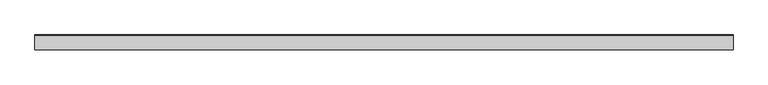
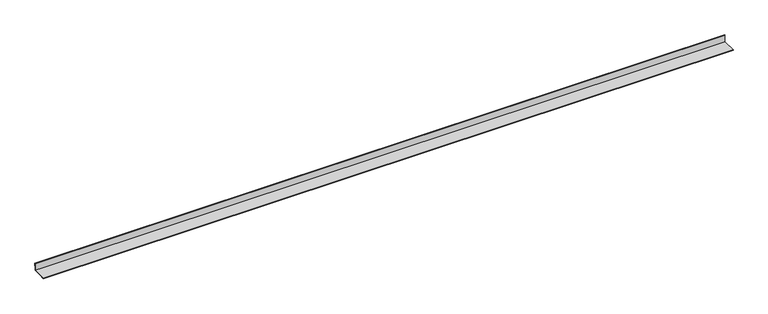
"""IFC4 building model written with IfcOpenShell, lengths in millimetres: proxy geometry, АК3_1 Обрамление внутреннего угла : АК3_1 Обрамление внутреннего угла."""

import ifcopenshell
import ifcopenshell.guid

model = None  # the IFC model being written
_history = None  # IfcOwnerHistory: only IFC2X3 demands one
_inside = {}  # id of a spatial element -> (the spatial element, [elements in it])
_under = {}  # id of a project, library or spatial element -> (it, [spatial elements below it])
_declared = {}  # id of a project -> (the project, [libraries it declares])
_typed = {}  # id of a type object -> (the type object, [elements of that type])
_made_of = {}  # id of a material, layer set ... -> (it, [elements and type objects made of it])


def new_model(schema):
    """Start an empty IFC model of exactly this schema.

    Asked for "IFC4X3", IfcOpenShell would pick the latest addendum, in which some entities
    have other attributes; the version numbers below select the first issue.
    IFC2X3 requires an IfcOwnerHistory on every rooted entity: one is made here for all.
    """
    global model, _history
    if schema == "IFC4X3":
        model = ifcopenshell.file(schema_version=(4, 3, 0, 0))
    else:
        model = ifcopenshell.file(schema=schema)
    _inside.clear()
    _under.clear()
    _declared.clear()
    _typed.clear()
    _made_of.clear()
    _history = None
    if model.schema == "IFC2X3":
        org = make("IfcOrganization", Name="unknown")
        user = make(
            "IfcPersonAndOrganization",
            ThePerson=make("IfcPerson", FamilyName="unknown"),
            TheOrganization=org,
        )
        app = make(
            "IfcApplication",
            ApplicationDeveloper=org,
            Version="unknown",
            ApplicationFullName="unknown",
            ApplicationIdentifier="unknown",
        )
        _history = make(
            "IfcOwnerHistory",
            OwningUser=user,
            OwningApplication=app,
            ChangeAction="ADDED",
            CreationDate=0,
        )
    return model


def make(cls, **values):
    """One entity of the class cls with the attributes given. An attribute that is None is left unset."""
    return model.create_entity(
        cls, **{name: value for name, value in values.items() if value is not None}
    )


def rooted(cls, **values):
    """An entity with a GlobalId (a new one), such as an element, a storey or a relation."""
    return make(cls, GlobalId=ifcopenshell.guid.new(), OwnerHistory=_history, **values)


def si_unit(unit_type, name, prefix=None):
    """IfcSIUnit, for example si_unit("LENGTHUNIT", "METRE", prefix="MILLI")."""
    return make("IfcSIUnit", UnitType=unit_type, Prefix=prefix, Name=name)


def assignment(units):
    """IfcUnitAssignment: the units of a project."""
    return None if units is None else make("IfcUnitAssignment", Units=units)


def point(xyz):
    """IfcCartesianPoint."""
    return None if xyz is None else make("IfcCartesianPoint", Coordinates=xyz)


def direction(xyz):
    """IfcDirection."""
    return None if xyz is None else make("IfcDirection", DirectionRatios=xyz)


def frame(location, z_axis=None, x_axis=None):
    """IfcAxis2Placement3D, a coordinate frame: its origin and axes. An axis left out is left unset."""
    return make(
        "IfcAxis2Placement3D",
        Location=point(location),
        Axis=direction(z_axis),
        RefDirection=direction(x_axis),
    )


def origin():
    """The frame at (0, 0, 0) with its axes left unset."""
    return frame((0.0, 0.0, 0.0))


def place(relative_to, where):
    """IfcLocalPlacement: puts the frame where relative to a parent placement (None: the world)."""
    return make(
        "IfcLocalPlacement", PlacementRelTo=relative_to, RelativePlacement=where
    )


def context(
    kind, dimensions, precision=None, world=None, true_north=None, identifier=None
):
    """IfcGeometricRepresentationContext, for example the 3D "Model" context."""
    return make(
        "IfcGeometricRepresentationContext",
        ContextIdentifier=identifier,
        ContextType=kind,
        CoordinateSpaceDimension=dimensions,
        Precision=precision,
        WorldCoordinateSystem=world,
        TrueNorth=true_north,
    )


def project(units=None, contexts=None):
    """IfcProject with its units and contexts."""
    return rooted(
        "IfcProject",
        Name="project",
        RepresentationContexts=contexts,
        UnitsInContext=assignment(units),
    )


def spatial(cls, under=None, at=None, **own):
    """A site, building, storey or space (cls), placed at a placement, below another one or the project."""
    s = rooted(cls, ObjectPlacement=at, **own)
    if under is not None:
        _under.setdefault(under.id(), (under, []))[1].append(s)
    return s


def polyline(points):
    """IfcPolyline through the points."""
    return make("IfcPolyline", Points=[point(p) for p in points])


def outline(outer, holes=None, kind="AREA"):
    """IfcArbitraryClosedProfileDef: a profile drawn as a closed curve; with holes, ...WithVoids."""
    if holes is None:
        return make("IfcArbitraryClosedProfileDef", ProfileType=kind, OuterCurve=outer)
    return make(
        "IfcArbitraryProfileDefWithVoids",
        ProfileType=kind,
        OuterCurve=outer,
        InnerCurves=holes,
    )


def extrude(swept, where, along, depth):
    """IfcExtrudedAreaSolid: the profile swept, set in the frame where, extruded along a direction by depth."""
    return make(
        "IfcExtrudedAreaSolid",
        SweptArea=swept,
        Position=where,
        ExtrudedDirection=direction(along),
        Depth=depth,
    )


def shape(context_of_items, identifier, shape_type, items):
    """IfcShapeRepresentation: the items that make up one representation, for example the "Body"."""
    return make(
        "IfcShapeRepresentation",
        ContextOfItems=context_of_items,
        RepresentationIdentifier=identifier,
        RepresentationType=shape_type,
        Items=items,
    )


def source(mapping_origin, context_of_items, identifier, shape_type, items):
    """IfcRepresentationMap: a shape defined once, which mapped items show again and again."""
    return make(
        "IfcRepresentationMap",
        MappingOrigin=mapping_origin,
        MappedRepresentation=shape(context_of_items, identifier, shape_type, items),
    )


def transform(
    local_origin,
    x_axis=None,
    y_axis=None,
    z_axis=None,
    scale=None,
    scale2=None,
    scale3=None,
    uniform=True,
):
    """IfcCartesianTransformationOperator3D, or its non-uniform kind. x_axis, y_axis, z_axis: its Axis1, 2, 3."""
    if uniform:
        return make(
            "IfcCartesianTransformationOperator3D",
            Axis1=direction(x_axis),
            Axis2=direction(y_axis),
            LocalOrigin=point(local_origin),
            Scale=scale,
            Axis3=direction(z_axis),
        )
    return make(
        "IfcCartesianTransformationOperator3DnonUniform",
        Axis1=direction(x_axis),
        Axis2=direction(y_axis),
        LocalOrigin=point(local_origin),
        Scale=scale,
        Axis3=direction(z_axis),
        Scale2=scale2,
        Scale3=scale3,
    )


def mapped(mapping_source, mapping_target):
    """IfcMappedItem: shows the shape of a source again, moved by a transform."""
    return make(
        "IfcMappedItem", MappingSource=mapping_source, MappingTarget=mapping_target
    )


def made_of(thing, what):
    """Note that an element or type object is made of a material, layer set ...; save() writes the relation."""
    if what is not None:
        _made_of.setdefault(what.id(), (what, []))[1].append(thing)
    return thing


def element(
    cls,
    number,
    at=None,
    inside=None,
    cuts=None,
    type_object=None,
    material=None,
    context=None,
    identifier="Body",
    shape_type=None,
    held_by="IfcProductDefinitionShape",
    body=None,
    shapes=None,
    **own,
):
    """One element of the class cls, such as IfcWall. Its Tag is "e" and its number.

    at: its placement. inside: the storey or other place that contains it. cuts: it is an
    opening in that element (IfcRelVoidsElement). A single representation is given by context,
    identifier, shape_type and body (its items); several are given by shapes. held_by: the class
    of the entity that holds the representations. save() writes the other relations.
    """
    e = rooted(cls, Tag="e%d" % number, ObjectPlacement=at, **own)
    if body is not None:
        shapes = [shape(context, identifier, shape_type, body)]
    if shapes is not None:
        e.Representation = make(held_by, Representations=shapes)
    if inside is not None:
        _inside.setdefault(inside.id(), (inside, []))[1].append(e)
    if cuts is not None:
        rooted(
            "IfcRelVoidsElement", RelatingBuildingElement=cuts, RelatedOpeningElement=e
        )
    if type_object is not None:
        _typed.setdefault(type_object.id(), (type_object, []))[1].append(e)
    return made_of(e, material)


def aggregate(whole, parts):
    """IfcRelAggregates: a whole, such as a stair, and the parts it consists of."""
    return rooted("IfcRelAggregates", RelatingObject=whole, RelatedObjects=parts)


def save(model, path):
    """Write the relations noted so far, then the file.

    IfcRelAggregates (storeys below a building ...), IfcRelContainedInSpatialStructure (elements
    in a storey), IfcRelDefinesByType, IfcRelAssociatesMaterial and IfcRelDeclares: one each for
    every whole, place, type object, material and project.
    """
    for whole, parts in _under.values():
        aggregate(whole, parts)
    for where, things in _inside.values():
        rooted(
            "IfcRelContainedInSpatialStructure",
            RelatedElements=things,
            RelatingStructure=where,
        )
    for kind, things in _typed.values():
        rooted("IfcRelDefinesByType", RelatedObjects=things, RelatingType=kind)
    for what, things in _made_of.values():
        rooted("IfcRelAssociatesMaterial", RelatedObjects=things, RelatingMaterial=what)
    for by, libraries in _declared.values():
        rooted("IfcRelDeclares", RelatingContext=by, RelatedDefinitions=libraries)
    model.write(path)


def generic_models_0874c4ac(model_context):
    return source(origin(), model_context, "Body", "SweptSolid", [
        extrude(outline(polyline([(-125.0, 5.0), (-5.0, 5.0), (-5.0, 65.0), (-2.0, 65.0), (-2.0, 45.0), (-3.0, 45.0), (-3.0, 64.0), (-4.0, 64.0), (-4.0, 4.0), (-124.0, 4.0), (-124.0, 3.0), (-105.0, 3.0), (-105.0, 2.0), (-125.0, 2.0), (-125.0, 5.0)])), frame((0.0, 0.0, 0.0), z_axis=(1.0, 0.0, 0.0), x_axis=(0.0, 1.0, 0.0)), (0.0, 0.0, 1.0), 5825.0),
    ])


if __name__ == "__main__":
    model = new_model("IFC4")
    model_context = context("Model", 3, world=origin())
    ifc_project = project(units=[si_unit("LENGTHUNIT", "METRE", prefix="MILLI")], contexts=[model_context])
    site = spatial("IfcSite", under=ifc_project)
    building = spatial("IfcBuilding", under=site)
    placement = place(None, origin())
    generic_models_shape = generic_models_0874c4ac(model_context)
    element("IfcBuildingElementProxy", 1, Name="АК3_1 Обрамление внутреннего угла : АК3_1 Обрамление внутреннего угла", ObjectType="АК3_1 Обрамление внутреннего угла : АК3_1 Обрамление внутреннего угла", at=placement, inside=building, context=model_context, shape_type="MappedRepresentation", body=[
        mapped(generic_models_shape, transform((0.0, 0.0, 0.0), x_axis=(1.0, 0.0, 0.0), y_axis=(0.0, 1.0, 0.0), z_axis=(0.0, 0.0, 1.0))),
    ])
    save(model, "model.ifc")
